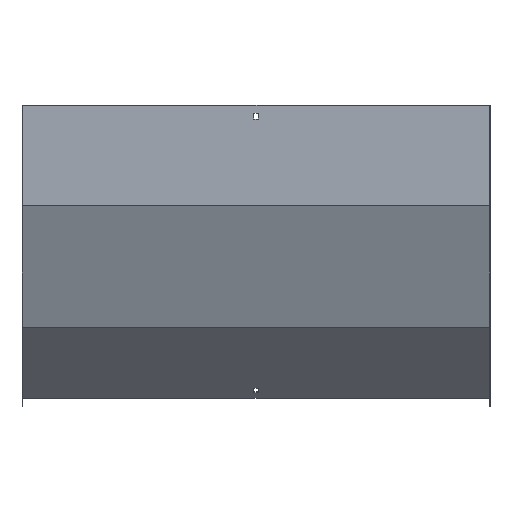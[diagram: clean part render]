
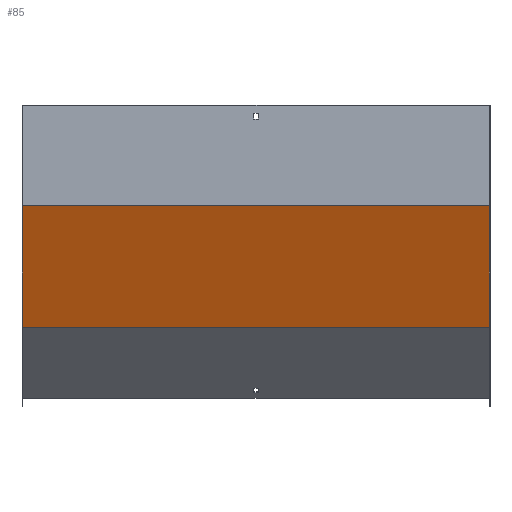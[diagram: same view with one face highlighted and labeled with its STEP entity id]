
A CAD part, front view. The second image highlights one B-rep face of the part: STEP entity #85.
In plain terms, the highlighted planar face has unit normal (0, -0.924, -0.383).
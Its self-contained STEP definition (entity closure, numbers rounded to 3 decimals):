
#3 = VERTEX_POINT ( 'NONE', #189 ) ;
#24 = VERTEX_POINT ( 'NONE', #504 ) ;
#27 = AXIS2_PLACEMENT_3D ( 'NONE', #334, #273, #746 ) ;
#85 = ADVANCED_FACE ( 'NONE', ( #185 ), #148, .F. ) ;
#91 = ORIENTED_EDGE ( 'NONE', *, *, #432, .T. ) ;
#121 = VECTOR ( 'NONE', #533, 1000. ) ;
#148 = PLANE ( 'NONE',  #27 ) ;
#175 = DIRECTION ( 'NONE',  ( 0., 0.383, -0.924 ) ) ;
#185 = FACE_OUTER_BOUND ( 'NONE', #274, .T. ) ;
#189 = CARTESIAN_POINT ( 'NONE',  ( -350., -1.5, -150.098 ) ) ;
#206 = CARTESIAN_POINT ( 'NONE',  ( -350., 74.691, -334.04 ) ) ;
#251 = VERTEX_POINT ( 'NONE', #639 ) ;
#266 = LINE ( 'NONE', #797, #737 ) ;
#273 = DIRECTION ( 'NONE',  ( 0., 0.924, 0.383 ) ) ;
#274 = EDGE_LOOP ( 'NONE', ( #764, #394, #660, #91 ) ) ;
#287 = VECTOR ( 'NONE', #585, 1000. ) ;
#334 = CARTESIAN_POINT ( 'NONE',  ( 351.5, -1.386, -150.374 ) ) ;
#394 = ORIENTED_EDGE ( 'NONE', *, *, #727, .F. ) ;
#420 = LINE ( 'NONE', #827, #592 ) ;
#432 = EDGE_CURVE ( 'NONE', #24, #3, #266, .T. ) ;
#504 = CARTESIAN_POINT ( 'NONE',  ( 350., -1.5, -150.098 ) ) ;
#507 = CARTESIAN_POINT ( 'NONE',  ( -350., -54.348, -22.512 ) ) ;
#510 = VERTEX_POINT ( 'NONE', #206 ) ;
#518 = LINE ( 'NONE', #507, #287 ) ;
#533 = DIRECTION ( 'NONE',  ( -1., 0., 0. ) ) ;
#585 = DIRECTION ( 'NONE',  ( 0., 0.383, -0.924 ) ) ;
#592 = VECTOR ( 'NONE', #175, 1000. ) ;
#596 = CARTESIAN_POINT ( 'NONE',  ( 351.5, 74.691, -334.04 ) ) ;
#639 = CARTESIAN_POINT ( 'NONE',  ( 350., 74.691, -334.04 ) ) ;
#640 = EDGE_CURVE ( 'NONE', #3, #510, #518, .T. ) ;
#660 = ORIENTED_EDGE ( 'NONE', *, *, #815, .F. ) ;
#663 = DIRECTION ( 'NONE',  ( -1., 0., 0. ) ) ;
#727 = EDGE_CURVE ( 'NONE', #251, #510, #740, .T. ) ;
#737 = VECTOR ( 'NONE', #663, 1000. ) ;
#740 = LINE ( 'NONE', #596, #121 ) ;
#746 = DIRECTION ( 'NONE',  ( 0., -0.383, 0.924 ) ) ;
#764 = ORIENTED_EDGE ( 'NONE', *, *, #640, .T. ) ;
#797 = CARTESIAN_POINT ( 'NONE',  ( 351.5, -1.5, -150.098 ) ) ;
#815 = EDGE_CURVE ( 'NONE', #24, #251, #420, .T. ) ;
#827 = CARTESIAN_POINT ( 'NONE',  ( 350., -54.348, -22.512 ) ) ;
